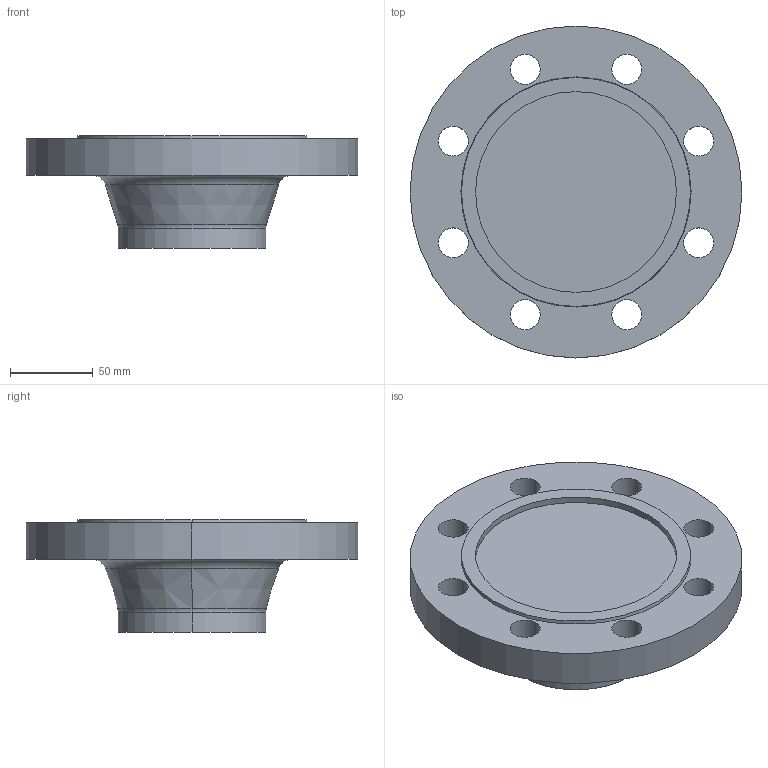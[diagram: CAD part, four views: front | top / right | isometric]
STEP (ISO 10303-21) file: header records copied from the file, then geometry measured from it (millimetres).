
FILE_DESCRIPTION (( 'STEP AP214' ), '1' );
FILE_NAME ('PN40 DN80 Type 21(ii) - Type F Face.STEP', '2019-01-01T17:20:59', ( '' ), ( '' ), 'SwSTEP 2.0', 'SolidWorks 2019', '' );
FILE_SCHEMA (( 'AUTOMOTIVE_DESIGN' ));
Length unit declared in the file: millimetre
Products named in the file (1): PN40 DN80 Type 21(ii) - Type F Face
Bounding box: 200 x 200 x 68 mm (x, y, z)
Volume: 950415.4 mm3; surface area: 94936.2 mm2
Topology: 1 solids, 1 shells, 35 faces, 84 edges, 54 vertices
Faces by surface type: cylinder 22, plane 5, torus 4, cone 4
Entity records: 1114 total; most frequent: DIRECTION 214, CARTESIAN_POINT 174, ORIENTED_EDGE 168, AXIS2_PLACEMENT_3D 94, EDGE_CURVE 84, CIRCLE 58, EDGE_LOOP 54, VERTEX_POINT 54
